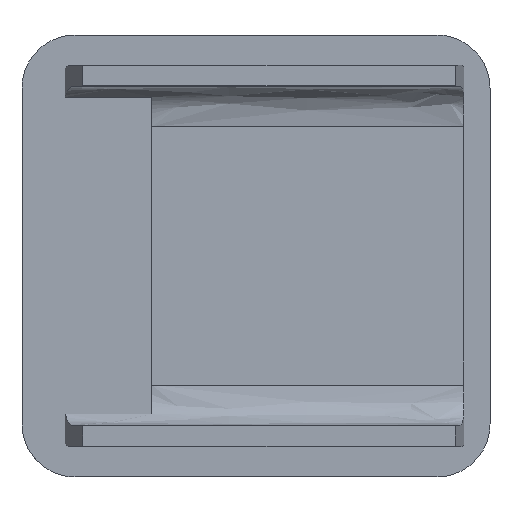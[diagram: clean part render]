
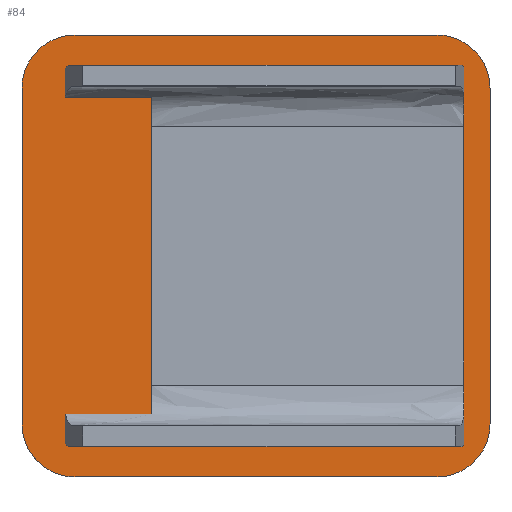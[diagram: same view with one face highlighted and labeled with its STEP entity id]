
A CAD part, top view. The second image highlights one B-rep face of the part: STEP entity #84.
In plain terms, the highlighted planar face has unit normal (0, 0, 1).
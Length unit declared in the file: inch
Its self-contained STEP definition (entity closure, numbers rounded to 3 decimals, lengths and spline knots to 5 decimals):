
#84=ADVANCED_FACE('',(#174,#175),#176,.T.);
#174=FACE_OUTER_BOUND('',#304,.T.);
#175=FACE_BOUND('',#305,.T.);
#176=PLANE('',#306);
#304=EDGE_LOOP('',(#489,#490,#491,#492,#493,#494,#495,#496));
#305=EDGE_LOOP('',(#497,#498,#499,#500));
#306=AXIS2_PLACEMENT_3D('',#501,#502,#503);
#489=ORIENTED_EDGE('',*,*,#631,.T.);
#490=ORIENTED_EDGE('',*,*,#694,.T.);
#491=ORIENTED_EDGE('',*,*,#695,.T.);
#492=ORIENTED_EDGE('',*,*,#696,.T.);
#493=ORIENTED_EDGE('',*,*,#697,.T.);
#494=ORIENTED_EDGE('',*,*,#698,.T.);
#495=ORIENTED_EDGE('',*,*,#636,.T.);
#496=ORIENTED_EDGE('',*,*,#640,.T.);
#497=ORIENTED_EDGE('',*,*,#699,.T.);
#498=ORIENTED_EDGE('',*,*,#691,.T.);
#499=ORIENTED_EDGE('',*,*,#645,.T.);
#500=ORIENTED_EDGE('',*,*,#700,.F.);
#501=CARTESIAN_POINT('',(4.13587,5.43634,0.0));
#502=DIRECTION('',(0.0,0.0,1.0));
#503=DIRECTION('',(1.0,0.0,0.0));
#631=EDGE_CURVE('',#749,#747,#750,.T.);
#636=EDGE_CURVE('',#758,#756,#759,.T.);
#640=EDGE_CURVE('',#756,#749,#763,.T.);
#645=EDGE_CURVE('',#772,#770,#773,.T.);
#691=EDGE_CURVE('',#844,#772,#845,.T.);
#694=EDGE_CURVE('',#747,#848,#849,.T.);
#695=EDGE_CURVE('',#848,#850,#851,.T.);
#696=EDGE_CURVE('',#850,#852,#853,.T.);
#697=EDGE_CURVE('',#852,#854,#855,.T.);
#698=EDGE_CURVE('',#854,#758,#856,.T.);
#699=EDGE_CURVE('',#857,#844,#858,.T.);
#700=EDGE_CURVE('',#857,#770,#859,.T.);
#747=VERTEX_POINT('',#951);
#749=VERTEX_POINT('',#954);
#750=B_SPLINE_CURVE_WITH_KNOTS('',3,(#955,#956,#957,#958),.UNSPECIFIED.,.F.,.F.,(4,4),(0.0,1.0),.UNSPECIFIED.);
#756=VERTEX_POINT('',#968);
#758=VERTEX_POINT('',#971);
#759=B_SPLINE_CURVE_WITH_KNOTS('',3,(#972,#973,#974,#975),.UNSPECIFIED.,.F.,.F.,(4,4),(0.0,1.0),.UNSPECIFIED.);
#763=LINE('',#981,#982);
#770=VERTEX_POINT('',#999);
#772=VERTEX_POINT('',#1010);
#773=LINE('',#1011,#1012);
#844=VERTEX_POINT('',#1172);
#845=LINE('',#1173,#1174);
#848=VERTEX_POINT('',#1188);
#849=LINE('',#1189,#1190);
#850=VERTEX_POINT('',#1191);
#851=B_SPLINE_CURVE_WITH_KNOTS('',3,(#1192,#1193,#1194,#1195),.UNSPECIFIED.,.F.,.F.,(4,4),(0.0,1.0),.UNSPECIFIED.);
#852=VERTEX_POINT('',#1196);
#853=LINE('',#1197,#1198);
#854=VERTEX_POINT('',#1199);
#855=B_SPLINE_CURVE_WITH_KNOTS('',3,(#1200,#1201,#1202,#1203),.UNSPECIFIED.,.F.,.F.,(4,4),(0.0,1.0),.UNSPECIFIED.);
#856=LINE('',#1204,#1205);
#857=VERTEX_POINT('',#1206);
#858=LINE('',#1207,#1208);
#859=LINE('',#1209,#1210);
#951=CARTESIAN_POINT('',(4.78847,6.23315,0.0));
#954=CARTESIAN_POINT('',(4.97976,6.04186,0.0));
#955=CARTESIAN_POINT('',(4.97976,6.04186,0.0));
#956=CARTESIAN_POINT('',(4.97976,6.14752,0.0));
#957=CARTESIAN_POINT('',(4.89411,6.23315,0.0));
#958=CARTESIAN_POINT('',(4.78847,6.23315,0.0));
#968=CARTESIAN_POINT('',(4.97976,4.83082,0.0));
#971=CARTESIAN_POINT('',(4.78847,4.63953,0.0));
#972=CARTESIAN_POINT('',(4.78847,4.63953,0.0));
#973=CARTESIAN_POINT('',(4.89411,4.63953,0.0));
#974=CARTESIAN_POINT('',(4.97976,4.72518,0.0));
#975=CARTESIAN_POINT('',(4.97976,4.83082,0.0));
#981=CARTESIAN_POINT('',(4.97976,4.83082,0.0));
#982=VECTOR('',#1273,1.0);
#999=CARTESIAN_POINT('',(3.76068,5.95874,0.0));
#1010=CARTESIAN_POINT('',(3.76068,4.91394,0.0));
#1011=CARTESIAN_POINT('',(3.76068,5.80872,0.0));
#1012=VECTOR('',#1275,1.0);
#1172=CARTESIAN_POINT('',(4.88591,4.91394,0.0));
#1173=CARTESIAN_POINT('',(4.88605,4.91394,0.0));
#1174=VECTOR('',#1300,1.0);
#1188=CARTESIAN_POINT('',(3.48328,6.23315,0.0));
#1189=CARTESIAN_POINT('',(4.78847,6.23315,0.0));
#1190=VECTOR('',#1301,1.0);
#1191=CARTESIAN_POINT('',(3.29198,6.04186,0.0));
#1192=CARTESIAN_POINT('',(3.48328,6.23315,0.0));
#1193=CARTESIAN_POINT('',(3.37763,6.23315,0.0));
#1194=CARTESIAN_POINT('',(3.29198,6.14752,0.0));
#1195=CARTESIAN_POINT('',(3.29198,6.04186,0.0));
#1196=CARTESIAN_POINT('',(3.29198,4.83082,0.0));
#1197=CARTESIAN_POINT('',(3.29198,6.04186,0.0));
#1198=VECTOR('',#1302,1.0);
#1199=CARTESIAN_POINT('',(3.48328,4.63953,0.0));
#1200=CARTESIAN_POINT('',(3.29198,4.83082,0.0));
#1201=CARTESIAN_POINT('',(3.29198,4.72518,0.0));
#1202=CARTESIAN_POINT('',(3.37763,4.63953,0.0));
#1203=CARTESIAN_POINT('',(3.48328,4.63953,0.0));
#1204=CARTESIAN_POINT('',(3.48328,4.63953,0.0));
#1205=VECTOR('',#1303,1.0);
#1206=CARTESIAN_POINT('',(4.88591,5.95874,0.0));
#1207=CARTESIAN_POINT('',(4.88591,5.80872,0.0));
#1208=VECTOR('',#1304,1.0);
#1209=CARTESIAN_POINT('',(4.88605,5.95874,0.0));
#1210=VECTOR('',#1305,1.0);
#1273=DIRECTION('',(0.0,1.0,0.0));
#1275=DIRECTION('',(0.0,1.0,0.0));
#1300=DIRECTION('',(-1.0,0.0,0.0));
#1301=DIRECTION('',(-1.0,0.0,0.0));
#1302=DIRECTION('',(0.0,-1.0,0.0));
#1303=DIRECTION('',(1.0,0.0,0.0));
#1304=DIRECTION('',(0.0,-1.0,0.0));
#1305=DIRECTION('',(-1.0,0.0,0.0));
